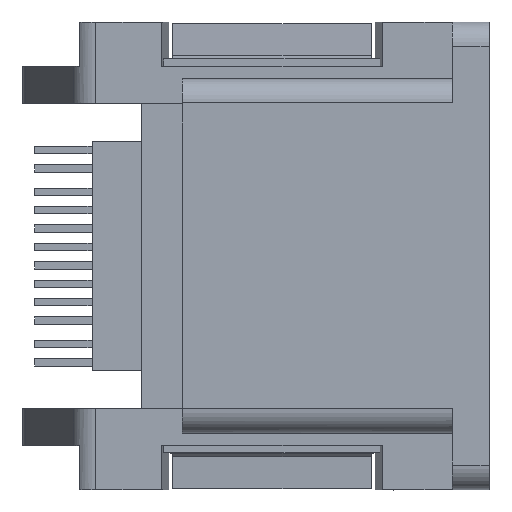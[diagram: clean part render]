
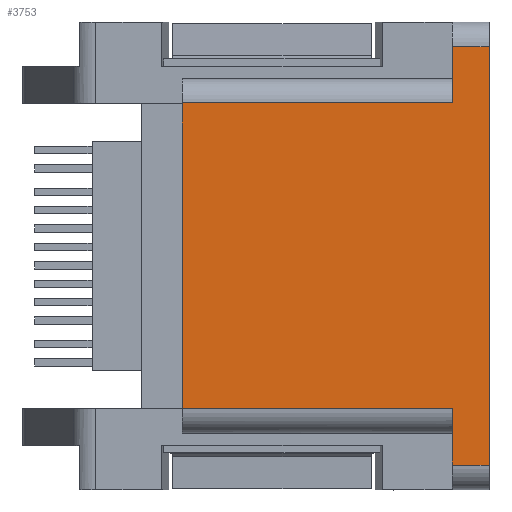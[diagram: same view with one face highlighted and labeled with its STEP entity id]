
A CAD part, top view. The second image highlights one B-rep face of the part: STEP entity #3753.
In plain terms, the highlighted planar face has unit normal (0, 0, 1).
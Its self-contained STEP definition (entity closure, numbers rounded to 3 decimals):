
#3708=AXIS2_PLACEMENT_3D('Plane Axis2P3D',#3705,#3706,#3707) ;
#2559=CARTESIAN_POINT('Vertex',(-1.5,-6.225,9.)) ;
#2564=CARTESIAN_POINT('Line Origine',(-1.5,0.,9.)) ;
#2568=CARTESIAN_POINT('Vertex',(-1.5,6.225,9.)) ;
#3624=CARTESIAN_POINT('Line Origine',(9.5,-7.375,9.)) ;
#3628=CARTESIAN_POINT('Vertex',(9.5,-8.525,9.)) ;
#3630=CARTESIAN_POINT('Vertex',(9.5,-6.225,9.)) ;
#3693=CARTESIAN_POINT('Line Origine',(4.75,-6.225,9.)) ;
#3705=CARTESIAN_POINT('Axis2P3D Location',(0.,-7.225,9.)) ;
#3710=CARTESIAN_POINT('Line Origine',(10.25,-8.525,9.)) ;
#3714=CARTESIAN_POINT('Vertex',(11.,-8.525,9.)) ;
#3717=CARTESIAN_POINT('Line Origine',(11.,0.,9.)) ;
#3721=CARTESIAN_POINT('Vertex',(11.,8.525,9.)) ;
#3724=CARTESIAN_POINT('Line Origine',(10.25,8.525,9.)) ;
#3728=CARTESIAN_POINT('Vertex',(9.5,8.525,9.)) ;
#3731=CARTESIAN_POINT('Line Origine',(9.5,7.375,9.)) ;
#3735=CARTESIAN_POINT('Vertex',(9.5,6.225,9.)) ;
#3738=CARTESIAN_POINT('Line Origine',(4.,6.225,9.)) ;
#2565=DIRECTION('Vector Direction',(0.,1.,0.)) ;
#3625=DIRECTION('Vector Direction',(0.,1.,0.)) ;
#3694=DIRECTION('Vector Direction',(1.,0.,0.)) ;
#3706=DIRECTION('Axis2P3D Direction',(0.,0.,-1.)) ;
#3707=DIRECTION('Axis2P3D XDirection',(0.,1.,0.)) ;
#3711=DIRECTION('Vector Direction',(-1.,0.,0.)) ;
#3718=DIRECTION('Vector Direction',(0.,1.,0.)) ;
#3725=DIRECTION('Vector Direction',(-1.,0.,0.)) ;
#3732=DIRECTION('Vector Direction',(0.,1.,0.)) ;
#3739=DIRECTION('Vector Direction',(1.,0.,0.)) ;
#2566=VECTOR('Line Direction',#2565,1.) ;
#3626=VECTOR('Line Direction',#3625,1.) ;
#3695=VECTOR('Line Direction',#3694,1.) ;
#3712=VECTOR('Line Direction',#3711,1.) ;
#3719=VECTOR('Line Direction',#3718,1.) ;
#3726=VECTOR('Line Direction',#3725,1.) ;
#3733=VECTOR('Line Direction',#3732,1.) ;
#3740=VECTOR('Line Direction',#3739,1.) ;
#3744=ORIENTED_EDGE('',*,*,#3716,.F.) ;
#3745=ORIENTED_EDGE('',*,*,#3723,.F.) ;
#3746=ORIENTED_EDGE('',*,*,#3730,.T.) ;
#3747=ORIENTED_EDGE('',*,*,#3737,.F.) ;
#3748=ORIENTED_EDGE('',*,*,#3742,.F.) ;
#3749=ORIENTED_EDGE('',*,*,#2570,.F.) ;
#3750=ORIENTED_EDGE('',*,*,#3697,.T.) ;
#3751=ORIENTED_EDGE('',*,*,#3632,.F.) ;
#3753=ADVANCED_FACE('6099-0003',(#3752),#3709,.F.) ;
#2570=EDGE_CURVE('',#2560,#2569,#2567,.T.) ;
#3632=EDGE_CURVE('',#3629,#3631,#3627,.T.) ;
#3697=EDGE_CURVE('',#2560,#3631,#3696,.T.) ;
#3716=EDGE_CURVE('',#3715,#3629,#3713,.T.) ;
#3723=EDGE_CURVE('',#3722,#3715,#3720,.F.) ;
#3730=EDGE_CURVE('',#3722,#3729,#3727,.T.) ;
#3737=EDGE_CURVE('',#3736,#3729,#3734,.T.) ;
#3742=EDGE_CURVE('',#2569,#3736,#3741,.T.) ;
#3743=EDGE_LOOP('',(#3744,#3745,#3746,#3747,#3748,#3749,#3750,#3751)) ;
#3752=FACE_OUTER_BOUND('',#3743,.T.) ;
#2567=LINE('Line',#2564,#2566) ;
#3627=LINE('Line',#3624,#3626) ;
#3696=LINE('Line',#3693,#3695) ;
#3713=LINE('Line',#3710,#3712) ;
#3720=LINE('Line',#3717,#3719) ;
#3727=LINE('Line',#3724,#3726) ;
#3734=LINE('Line',#3731,#3733) ;
#3741=LINE('Line',#3738,#3740) ;
#3709=PLANE('',#3708) ;
#2560=VERTEX_POINT('',#2559) ;
#2569=VERTEX_POINT('',#2568) ;
#3629=VERTEX_POINT('',#3628) ;
#3631=VERTEX_POINT('',#3630) ;
#3715=VERTEX_POINT('',#3714) ;
#3722=VERTEX_POINT('',#3721) ;
#3729=VERTEX_POINT('',#3728) ;
#3736=VERTEX_POINT('',#3735) ;
